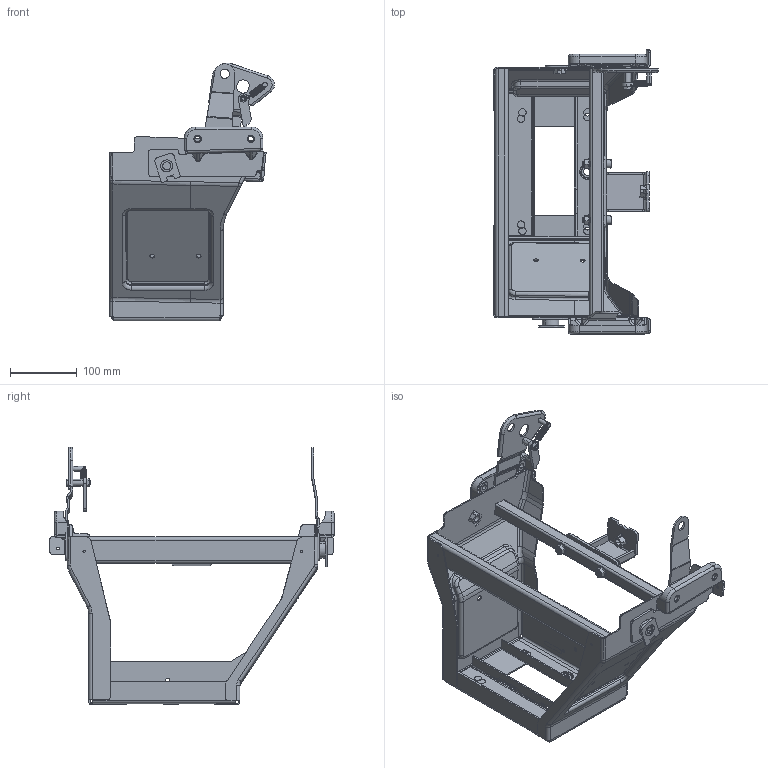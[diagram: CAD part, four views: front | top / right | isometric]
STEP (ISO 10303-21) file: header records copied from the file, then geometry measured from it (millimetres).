
FILE_DESCRIPTION(('CATIA V5 STEP Exchange'),'2;1');
FILE_NAME('C:\Users\Administrator\Desktop\徐工副驾底支架样件数据-20250709.stp','2025-07-09T07:24:53+00:00',('none'),('none'),'CATIA Version 5 Release 20 GA (IN-10)','CATIA V5 STEP AP214','none');
FILE_SCHEMA(('AUTOMOTIVE_DESIGN { 1 0 10303 214 1 1 1 1 }'));
Products named in the file (25): H4681021100A0; 新状态; Copy (1) of H4A-6901200; H4A-6901201; H4A-6901202; H4681020313A0; H4681020314A0; H4681020315A0; H4681020316A0; H4681010215A0; H4681010216A0; H4681010391A0; H4A-6901203; H4A-6901204; Q370C10.2; H4A-6901215_1; H4A-6901205; Q32608; H4681021412A0; H4681021401A0; H4A-6901207; GB_T70.1-2000.1; GB_T70.1-2000.2; Q32008.1; Q32008.2
Assembly tree (24 placements, depth 4):
  H4681021100A0
    新状态
    Copy (1) of H4A-6901200
      H4A-6901201
      H4A-6901202
      H4681020313A0
      H4681020314A0
      H4681020315A0
      H4681020316A0
      H4681010215A0
      H4681010216A0
      H4681010391A0
      H4A-6901203
      H4A-6901204
      Q370C10.2
      H4A-6901215_1
        H4A-6901205
        Q32608
        H4681021412A0
        H4681021401A0
      H4A-6901207
      GB_T70.1-2000.1
      GB_T70.1-2000.2
      Q32008.1
      Q32008.2
Bounding box: 247.21 x 426.64 x 387.03 mm (x, y, z)
Volume: 1473140.9 mm3; surface area: 1357135 mm2
Topology: 56 solids, 264 shells, 3034 faces, 8322 edges, 5568 vertices
Faces by surface type: cylinder 1266, plane 1028, bspline 314, torus 182, cone 176, sphere 64, revolution 4
Entity records: 135258 total; most frequent: CARTESIAN_POINT 64997, ORIENTED_EDGE 15662, DIRECTION 10410, EDGE_CURVE 8258, VERTEX_POINT 5568, AXIS2_PLACEMENT_3D 4114, VECTOR 3733, LINE 3733
